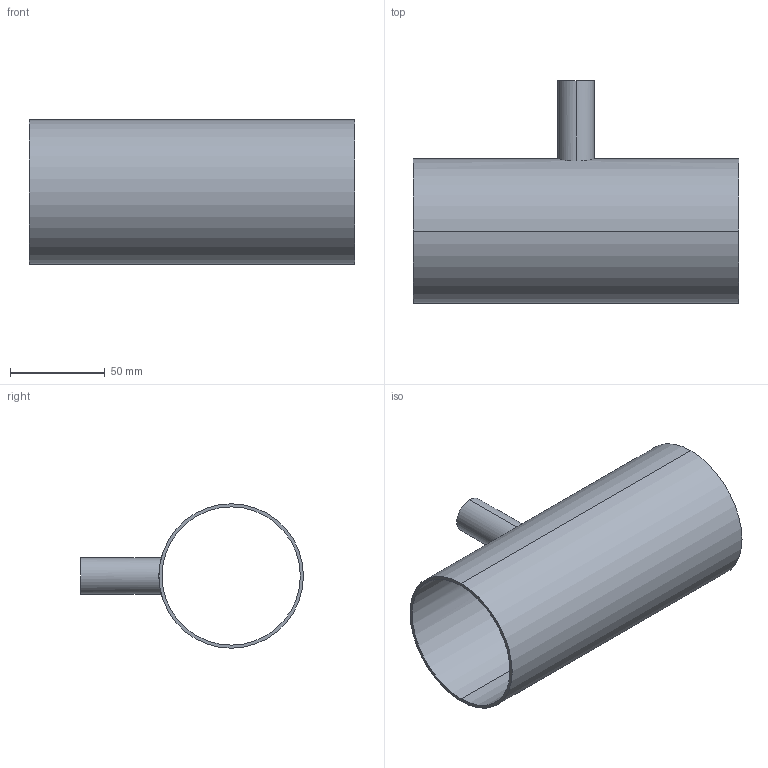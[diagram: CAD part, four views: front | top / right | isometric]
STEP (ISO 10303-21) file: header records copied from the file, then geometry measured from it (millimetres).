
FILE_DESCRIPTION (( 'STEP AP214' ), '1' );
FILE_NAME ('TE7RWWW6L3.0x.75-...STEP', '2016-05-24T04:21:35', ( 'eran' ), ( '' ), 'SwSTEP 2.0', 'SolidWorks 2016', '' );
FILE_SCHEMA (( 'AUTOMOTIVE_DESIGN' ));
Length unit declared in the file: millimetre
Products named in the file (1): TE7RWWW6L3.0x.75-..
Bounding box: 171.4 x 117.5 x 76.2 mm (x, y, z)
Volume: 69683.2 mm3; surface area: 85319.7 mm2
Topology: 1 solids, 1 shells, 11 faces, 24 edges, 16 vertices
Faces by surface type: cylinder 8, plane 3
Entity records: 536 total; most frequent: CARTESIAN_POINT 244, DIRECTION 56, ORIENTED_EDGE 48, EDGE_CURVE 24, AXIS2_PLACEMENT_3D 24, EDGE_LOOP 16, VERTEX_POINT 16, CIRCLE 12
